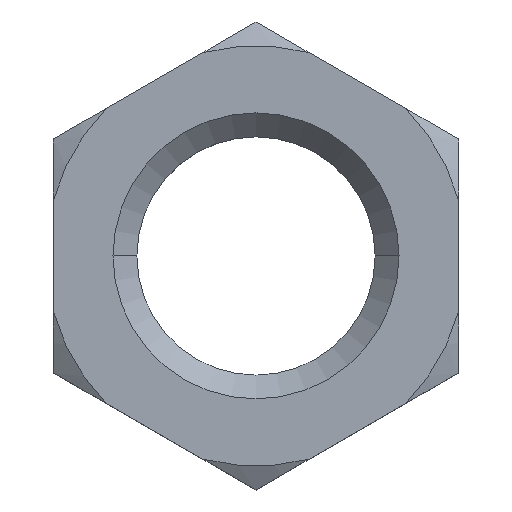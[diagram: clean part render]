
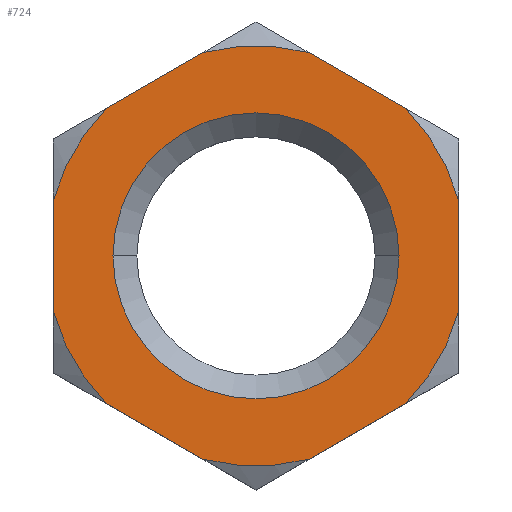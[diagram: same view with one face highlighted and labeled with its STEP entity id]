
A CAD part, top view. The second image highlights one B-rep face of the part: STEP entity #724.
In plain terms, the highlighted planar face has unit normal (0, 0, 1).
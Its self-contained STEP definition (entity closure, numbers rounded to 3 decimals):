
#13 = DIRECTION ( 'NONE',  ( -1., 0., 0. ) ) ;
#21 = EDGE_CURVE ( 'NONE', #781, #312, #868, .T. ) ;
#55 = DIRECTION ( 'NONE',  ( 0., 0., -1. ) ) ;
#56 = DIRECTION ( 'NONE',  ( 0., 1., 0. ) ) ;
#68 = CIRCLE ( 'NONE', #706, 8.815 ) ;
#81 = DIRECTION ( 'NONE',  ( 0., 0., -1. ) ) ;
#85 = CARTESIAN_POINT ( 'NONE',  ( -6.272, -6.194, 2.35 ) ) ;
#91 = CIRCLE ( 'NONE', #119, 8.815 ) ;
#95 = CARTESIAN_POINT ( 'NONE',  ( -2.228, -8.529, 2.35 ) ) ;
#103 = VECTOR ( 'NONE', #428, 1000. ) ;
#119 = AXIS2_PLACEMENT_3D ( 'NONE', #616, #685, #756 ) ;
#120 = VERTEX_POINT ( 'NONE', #85 ) ;
#124 = VERTEX_POINT ( 'NONE', #738 ) ;
#139 = VERTEX_POINT ( 'NONE', #803 ) ;
#161 = EDGE_CURVE ( 'NONE', #857, #178, #716, .T. ) ;
#162 = ORIENTED_EDGE ( 'NONE', *, *, #21, .T. ) ;
#175 = VECTOR ( 'NONE', #56, 1000. ) ;
#178 = VERTEX_POINT ( 'NONE', #597 ) ;
#190 = PLANE ( 'NONE',  #322 ) ;
#192 = ORIENTED_EDGE ( 'NONE', *, *, #437, .F. ) ;
#197 = DIRECTION ( 'NONE',  ( 0., 0., -1. ) ) ;
#198 = CARTESIAN_POINT ( 'NONE',  ( 0., 0., 2.35 ) ) ;
#209 = DIRECTION ( 'NONE',  ( 0., -1., 0. ) ) ;
#239 = VERTEX_POINT ( 'NONE', #95 ) ;
#244 = DIRECTION ( 'NONE',  ( -0.866, 0.5, 0. ) ) ;
#253 = CARTESIAN_POINT ( 'NONE',  ( -6., 0., 2.35 ) ) ;
#255 = VERTEX_POINT ( 'NONE', #825 ) ;
#261 = CIRCLE ( 'NONE', #861, 6. ) ;
#267 = VERTEX_POINT ( 'NONE', #672 ) ;
#269 = CARTESIAN_POINT ( 'NONE',  ( -8.5, -4.907, 2.35 ) ) ;
#279 = AXIS2_PLACEMENT_3D ( 'NONE', #307, #311, #326 ) ;
#288 = AXIS2_PLACEMENT_3D ( 'NONE', #558, #55, #567 ) ;
#293 = CARTESIAN_POINT ( 'NONE',  ( 0., 0., 2.35 ) ) ;
#299 = CARTESIAN_POINT ( 'NONE',  ( 0., 9.815, 2.35 ) ) ;
#307 = CARTESIAN_POINT ( 'NONE',  ( 0., 0., 2.35 ) ) ;
#311 = DIRECTION ( 'NONE',  ( 0., 0., -1. ) ) ;
#312 = VERTEX_POINT ( 'NONE', #830 ) ;
#316 = FACE_OUTER_BOUND ( 'NONE', #852, .T. ) ;
#320 = ORIENTED_EDGE ( 'NONE', *, *, #726, .T. ) ;
#322 = AXIS2_PLACEMENT_3D ( 'NONE', #198, #696, #770 ) ;
#326 = DIRECTION ( 'NONE',  ( -1., 0., 0. ) ) ;
#341 = VECTOR ( 'NONE', #244, 1000. ) ;
#342 = DIRECTION ( 'NONE',  ( 0.866, -0.5, 0. ) ) ;
#349 = DIRECTION ( 'NONE',  ( -1., 0., 0. ) ) ;
#359 = ORIENTED_EDGE ( 'NONE', *, *, #635, .F. ) ;
#361 = VECTOR ( 'NONE', #342, 1000. ) ;
#365 = CARTESIAN_POINT ( 'NONE',  ( -8.5, 4.907, 2.35 ) ) ;
#382 = LINE ( 'NONE', #269, #361 ) ;
#397 = VERTEX_POINT ( 'NONE', #902 ) ;
#398 = CARTESIAN_POINT ( 'NONE',  ( 0., 0., 2.35 ) ) ;
#416 = CARTESIAN_POINT ( 'NONE',  ( 8.5, -2.335, 2.35 ) ) ;
#422 = ORIENTED_EDGE ( 'NONE', *, *, #531, .F. ) ;
#424 = CARTESIAN_POINT ( 'NONE',  ( 0., 0., 2.35 ) ) ;
#428 = DIRECTION ( 'NONE',  ( 0.866, 0.5, 0. ) ) ;
#429 = EDGE_CURVE ( 'NONE', #120, #239, #382, .T. ) ;
#435 = DIRECTION ( 'NONE',  ( -0.866, -0.5, 0. ) ) ;
#437 = EDGE_CURVE ( 'NONE', #124, #239, #642, .T. ) ;
#446 = LINE ( 'NONE', #299, #720 ) ;
#447 = CARTESIAN_POINT ( 'NONE',  ( 0., 0., 2.35 ) ) ;
#452 = EDGE_CURVE ( 'NONE', #641, #267, #798, .T. ) ;
#504 = DIRECTION ( 'NONE',  ( -1., 0., 0. ) ) ;
#506 = ORIENTED_EDGE ( 'NONE', *, *, #161, .F. ) ;
#509 = DIRECTION ( 'NONE',  ( -1., 0., 0. ) ) ;
#525 = ORIENTED_EDGE ( 'NONE', *, *, #452, .T. ) ;
#529 = FACE_BOUND ( 'NONE', #725, .T. ) ;
#531 = EDGE_CURVE ( 'NONE', #120, #312, #882, .T. ) ;
#534 = DIRECTION ( 'NONE',  ( 0., 0., -1. ) ) ;
#538 = LINE ( 'NONE', #833, #103 ) ;
#558 = CARTESIAN_POINT ( 'NONE',  ( 0., 0., 2.35 ) ) ;
#567 = DIRECTION ( 'NONE',  ( 1., 0., 0. ) ) ;
#577 = EDGE_CURVE ( 'NONE', #781, #397, #920, .T. ) ;
#583 = EDGE_CURVE ( 'NONE', #139, #397, #446, .T. ) ;
#597 = CARTESIAN_POINT ( 'NONE',  ( 8.5, 2.335, 2.35 ) ) ;
#603 = CARTESIAN_POINT ( 'NONE',  ( 6.272, 6.194, 2.35 ) ) ;
#606 = ORIENTED_EDGE ( 'NONE', *, *, #762, .T. ) ;
#616 = CARTESIAN_POINT ( 'NONE',  ( 0., 0., 2.35 ) ) ;
#619 = EDGE_CURVE ( 'NONE', #267, #641, #261, .T. ) ;
#624 = ORIENTED_EDGE ( 'NONE', *, *, #577, .F. ) ;
#626 = CARTESIAN_POINT ( 'NONE',  ( -8.5, 2.335, 2.35 ) ) ;
#635 = EDGE_CURVE ( 'NONE', #715, #255, #91, .T. ) ;
#641 = VERTEX_POINT ( 'NONE', #253 ) ;
#642 = CIRCLE ( 'NONE', #691, 8.815 ) ;
#652 = CARTESIAN_POINT ( 'NONE',  ( 8.5, -4.907, 2.35 ) ) ;
#654 = LINE ( 'NONE', #928, #341 ) ;
#672 = CARTESIAN_POINT ( 'NONE',  ( 6., 0., 2.35 ) ) ;
#681 = VECTOR ( 'NONE', #209, 1000. ) ;
#682 = DIRECTION ( 'NONE',  ( 1., 0., 0. ) ) ;
#685 = DIRECTION ( 'NONE',  ( 0., 0., -1. ) ) ;
#691 = AXIS2_PLACEMENT_3D ( 'NONE', #932, #197, #349 ) ;
#696 = DIRECTION ( 'NONE',  ( 0., 0., 1. ) ) ;
#706 = AXIS2_PLACEMENT_3D ( 'NONE', #447, #81, #13 ) ;
#715 = VERTEX_POINT ( 'NONE', #416 ) ;
#716 = CIRCLE ( 'NONE', #279, 8.815 ) ;
#720 = VECTOR ( 'NONE', #435, 1000. ) ;
#724 = ADVANCED_FACE ( 'NONE', ( #529, #316 ), #190, .T. ) ;
#725 = EDGE_LOOP ( 'NONE', ( #755, #525 ) ) ;
#726 = EDGE_CURVE ( 'NONE', #857, #743, #654, .T. ) ;
#738 = CARTESIAN_POINT ( 'NONE',  ( 2.228, -8.529, 2.35 ) ) ;
#743 = VERTEX_POINT ( 'NONE', #889 ) ;
#755 = ORIENTED_EDGE ( 'NONE', *, *, #619, .T. ) ;
#756 = DIRECTION ( 'NONE',  ( -1., 0., 0. ) ) ;
#762 = EDGE_CURVE ( 'NONE', #715, #178, #862, .T. ) ;
#770 = DIRECTION ( 'NONE',  ( 1., 0., 0. ) ) ;
#781 = VERTEX_POINT ( 'NONE', #626 ) ;
#790 = ORIENTED_EDGE ( 'NONE', *, *, #818, .F. ) ;
#795 = DIRECTION ( 'NONE',  ( 0., 0., -1. ) ) ;
#798 = CIRCLE ( 'NONE', #288, 6. ) ;
#803 = CARTESIAN_POINT ( 'NONE',  ( -2.228, 8.529, 2.35 ) ) ;
#818 = EDGE_CURVE ( 'NONE', #139, #743, #68, .T. ) ;
#825 = CARTESIAN_POINT ( 'NONE',  ( 6.272, -6.194, 2.35 ) ) ;
#830 = CARTESIAN_POINT ( 'NONE',  ( -8.5, -2.335, 2.35 ) ) ;
#831 = ORIENTED_EDGE ( 'NONE', *, *, #937, .T. ) ;
#833 = CARTESIAN_POINT ( 'NONE',  ( 0., -9.815, 2.35 ) ) ;
#835 = AXIS2_PLACEMENT_3D ( 'NONE', #424, #795, #509 ) ;
#852 = EDGE_LOOP ( 'NONE', ( #359, #606, #506, #320, #790, #899, #624, #162, #422, #878, #192, #831 ) ) ;
#857 = VERTEX_POINT ( 'NONE', #603 ) ;
#858 = DIRECTION ( 'NONE',  ( 0., 0., -1. ) ) ;
#861 = AXIS2_PLACEMENT_3D ( 'NONE', #398, #534, #682 ) ;
#862 = LINE ( 'NONE', #652, #175 ) ;
#868 = LINE ( 'NONE', #365, #681 ) ;
#878 = ORIENTED_EDGE ( 'NONE', *, *, #429, .T. ) ;
#882 = CIRCLE ( 'NONE', #835, 8.815 ) ;
#889 = CARTESIAN_POINT ( 'NONE',  ( 2.228, 8.529, 2.35 ) ) ;
#899 = ORIENTED_EDGE ( 'NONE', *, *, #583, .T. ) ;
#902 = CARTESIAN_POINT ( 'NONE',  ( -6.272, 6.194, 2.35 ) ) ;
#920 = CIRCLE ( 'NONE', #931, 8.815 ) ;
#928 = CARTESIAN_POINT ( 'NONE',  ( 8.5, 4.907, 2.35 ) ) ;
#931 = AXIS2_PLACEMENT_3D ( 'NONE', #293, #858, #504 ) ;
#932 = CARTESIAN_POINT ( 'NONE',  ( 0., 0., 2.35 ) ) ;
#937 = EDGE_CURVE ( 'NONE', #124, #255, #538, .T. ) ;
